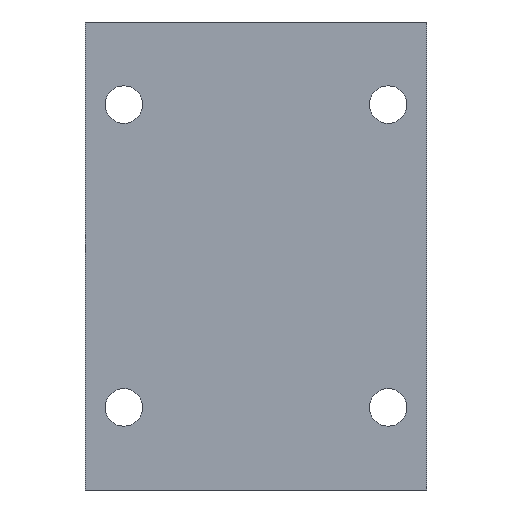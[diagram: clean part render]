
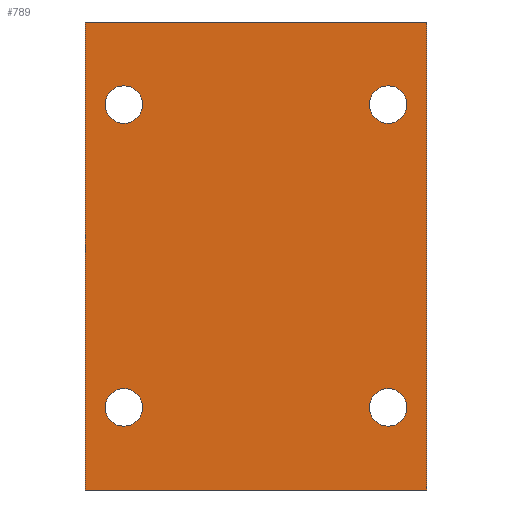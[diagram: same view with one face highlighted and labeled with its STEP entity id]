
A CAD part, front view. The second image highlights one B-rep face of the part: STEP entity #789.
In plain terms, the highlighted planar face has unit normal (0, -1, 0).
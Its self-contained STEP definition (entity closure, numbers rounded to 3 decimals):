
#6 = EDGE_CURVE ( 'NONE', #798, #648, #185, .T. ) ;
#46 = FACE_BOUND ( 'NONE', #164, .T. ) ;
#58 = CARTESIAN_POINT ( 'NONE',  ( -31., -27., 42.5 ) ) ;
#70 = CARTESIAN_POINT ( 'NONE',  ( -24., -27., -24.1 ) ) ;
#72 = AXIS2_PLACEMENT_3D ( 'NONE', #575, #127, #1046 ) ;
#84 = EDGE_CURVE ( 'NONE', #806, #1128, #363, .T. ) ;
#85 = VERTEX_POINT ( 'NONE', #514 ) ;
#89 = VECTOR ( 'NONE', #357, 1000. ) ;
#93 = AXIS2_PLACEMENT_3D ( 'NONE', #1166, #124, #493 ) ;
#124 = DIRECTION ( 'NONE',  ( 0., 1., 0. ) ) ;
#127 = DIRECTION ( 'NONE',  ( 0., -1., 0. ) ) ;
#164 = EDGE_LOOP ( 'NONE', ( #246, #1146 ) ) ;
#165 = VECTOR ( 'NONE', #581, 1000. ) ;
#181 = EDGE_CURVE ( 'NONE', #1044, #182, #1041, .T. ) ;
#182 = VERTEX_POINT ( 'NONE', #404 ) ;
#185 = CIRCLE ( 'NONE', #540, 3.4 ) ;
#200 = ORIENTED_EDGE ( 'NONE', *, *, #495, .T. ) ;
#236 = EDGE_CURVE ( 'NONE', #1128, #806, #1158, .T. ) ;
#245 = CIRCLE ( 'NONE', #1178, 3.4 ) ;
#246 = ORIENTED_EDGE ( 'NONE', *, *, #431, .F. ) ;
#268 = EDGE_LOOP ( 'NONE', ( #510, #832 ) ) ;
#269 = ORIENTED_EDGE ( 'NONE', *, *, #181, .T. ) ;
#275 = CARTESIAN_POINT ( 'NONE',  ( 24., -27., 27.5 ) ) ;
#288 = CARTESIAN_POINT ( 'NONE',  ( -24., -27., -27.5 ) ) ;
#292 = CARTESIAN_POINT ( 'NONE',  ( 24., -27., -30.9 ) ) ;
#297 = CARTESIAN_POINT ( 'NONE',  ( -31., -27., -42.5 ) ) ;
#299 = CARTESIAN_POINT ( 'NONE',  ( -31., -27., 42.5 ) ) ;
#301 = EDGE_LOOP ( 'NONE', ( #713, #990 ) ) ;
#327 = AXIS2_PLACEMENT_3D ( 'NONE', #275, #862, #866 ) ;
#348 = CARTESIAN_POINT ( 'NONE',  ( -24., -27., 27.5 ) ) ;
#357 = DIRECTION ( 'NONE',  ( 1., 0., 0. ) ) ;
#363 = CIRCLE ( 'NONE', #327, 3.4 ) ;
#371 = DIRECTION ( 'NONE',  ( 0., 0., -1. ) ) ;
#372 = VERTEX_POINT ( 'NONE', #892 ) ;
#380 = LINE ( 'NONE', #297, #165 ) ;
#401 = CIRCLE ( 'NONE', #1083, 3.4 ) ;
#404 = CARTESIAN_POINT ( 'NONE',  ( -31., -27., -42.5 ) ) ;
#406 = EDGE_CURVE ( 'NONE', #648, #798, #245, .T. ) ;
#411 = EDGE_LOOP ( 'NONE', ( #818, #727 ) ) ;
#415 = CARTESIAN_POINT ( 'NONE',  ( 24., -27., 24.1 ) ) ;
#429 = FACE_BOUND ( 'NONE', #301, .T. ) ;
#431 = EDGE_CURVE ( 'NONE', #1014, #701, #658, .T. ) ;
#464 = CARTESIAN_POINT ( 'NONE',  ( 24., -27., -24.1 ) ) ;
#474 = DIRECTION ( 'NONE',  ( 0., -1., 0. ) ) ;
#478 = VECTOR ( 'NONE', #371, 1000. ) ;
#485 = CARTESIAN_POINT ( 'NONE',  ( -24., -27., -27.5 ) ) ;
#493 = DIRECTION ( 'NONE',  ( 0., 0., 1. ) ) ;
#495 = EDGE_CURVE ( 'NONE', #182, #85, #380, .T. ) ;
#510 = ORIENTED_EDGE ( 'NONE', *, *, #700, .F. ) ;
#514 = CARTESIAN_POINT ( 'NONE',  ( 31., -27., -42.5 ) ) ;
#531 = LINE ( 'NONE', #58, #89 ) ;
#540 = AXIS2_PLACEMENT_3D ( 'NONE', #288, #1109, #747 ) ;
#557 = CIRCLE ( 'NONE', #621, 3.4 ) ;
#575 = CARTESIAN_POINT ( 'NONE',  ( -24., -27., 27.5 ) ) ;
#576 = CARTESIAN_POINT ( 'NONE',  ( -24., -27., 24.1 ) ) ;
#581 = DIRECTION ( 'NONE',  ( 1., 0., 0. ) ) ;
#588 = DIRECTION ( 'NONE',  ( 0., 0., -1. ) ) ;
#592 = FACE_OUTER_BOUND ( 'NONE', #919, .T. ) ;
#619 = DIRECTION ( 'NONE',  ( 0., 0., -1. ) ) ;
#621 = AXIS2_PLACEMENT_3D ( 'NONE', #963, #711, #588 ) ;
#637 = VECTOR ( 'NONE', #1150, 1000. ) ;
#647 = CARTESIAN_POINT ( 'NONE',  ( 24., -27., -27.5 ) ) ;
#648 = VERTEX_POINT ( 'NONE', #70 ) ;
#658 = CIRCLE ( 'NONE', #72, 3.4 ) ;
#666 = CARTESIAN_POINT ( 'NONE',  ( 24., -27., 30.9 ) ) ;
#683 = DIRECTION ( 'NONE',  ( 0., -1., 0. ) ) ;
#700 = EDGE_CURVE ( 'NONE', #1122, #1082, #557, .T. ) ;
#701 = VERTEX_POINT ( 'NONE', #796 ) ;
#711 = DIRECTION ( 'NONE',  ( 0., -1., 0. ) ) ;
#713 = ORIENTED_EDGE ( 'NONE', *, *, #6, .F. ) ;
#717 = DIRECTION ( 'NONE',  ( 0., -1., 0. ) ) ;
#718 = AXIS2_PLACEMENT_3D ( 'NONE', #348, #717, #816 ) ;
#727 = ORIENTED_EDGE ( 'NONE', *, *, #236, .F. ) ;
#747 = DIRECTION ( 'NONE',  ( 0., 0., -1. ) ) ;
#761 = DIRECTION ( 'NONE',  ( 0., 0., -1. ) ) ;
#776 = CIRCLE ( 'NONE', #718, 3.4 ) ;
#789 = ADVANCED_FACE ( 'NONE', ( #790, #46, #1073, #429, #592 ), #972, .F. ) ;
#790 = FACE_BOUND ( 'NONE', #268, .T. ) ;
#796 = CARTESIAN_POINT ( 'NONE',  ( -24., -27., 30.9 ) ) ;
#798 = VERTEX_POINT ( 'NONE', #1144 ) ;
#806 = VERTEX_POINT ( 'NONE', #415 ) ;
#816 = DIRECTION ( 'NONE',  ( 0., 0., -1. ) ) ;
#818 = ORIENTED_EDGE ( 'NONE', *, *, #84, .F. ) ;
#832 = ORIENTED_EDGE ( 'NONE', *, *, #1087, .F. ) ;
#857 = ORIENTED_EDGE ( 'NONE', *, *, #1107, .F. ) ;
#862 = DIRECTION ( 'NONE',  ( 0., -1., 0. ) ) ;
#866 = DIRECTION ( 'NONE',  ( 0., 0., -1. ) ) ;
#892 = CARTESIAN_POINT ( 'NONE',  ( 31., -27., 42.5 ) ) ;
#919 = EDGE_LOOP ( 'NONE', ( #200, #857, #1193, #269 ) ) ;
#923 = EDGE_CURVE ( 'NONE', #1044, #372, #531, .T. ) ;
#940 = DIRECTION ( 'NONE',  ( 0., 0., -1. ) ) ;
#950 = AXIS2_PLACEMENT_3D ( 'NONE', #973, #1113, #619 ) ;
#963 = CARTESIAN_POINT ( 'NONE',  ( 24., -27., -27.5 ) ) ;
#966 = EDGE_CURVE ( 'NONE', #701, #1014, #776, .T. ) ;
#972 = PLANE ( 'NONE',  #93 ) ;
#973 = CARTESIAN_POINT ( 'NONE',  ( 24., -27., 27.5 ) ) ;
#990 = ORIENTED_EDGE ( 'NONE', *, *, #406, .F. ) ;
#1014 = VERTEX_POINT ( 'NONE', #576 ) ;
#1041 = LINE ( 'NONE', #299, #637 ) ;
#1044 = VERTEX_POINT ( 'NONE', #1108 ) ;
#1046 = DIRECTION ( 'NONE',  ( 0., 0., -1. ) ) ;
#1073 = FACE_BOUND ( 'NONE', #411, .T. ) ;
#1082 = VERTEX_POINT ( 'NONE', #464 ) ;
#1083 = AXIS2_PLACEMENT_3D ( 'NONE', #647, #474, #761 ) ;
#1087 = EDGE_CURVE ( 'NONE', #1082, #1122, #401, .T. ) ;
#1107 = EDGE_CURVE ( 'NONE', #372, #85, #1198, .T. ) ;
#1108 = CARTESIAN_POINT ( 'NONE',  ( -31., -27., 42.5 ) ) ;
#1109 = DIRECTION ( 'NONE',  ( 0., -1., 0. ) ) ;
#1113 = DIRECTION ( 'NONE',  ( 0., -1., 0. ) ) ;
#1122 = VERTEX_POINT ( 'NONE', #292 ) ;
#1125 = CARTESIAN_POINT ( 'NONE',  ( 31., -27., 42.5 ) ) ;
#1128 = VERTEX_POINT ( 'NONE', #666 ) ;
#1144 = CARTESIAN_POINT ( 'NONE',  ( -24., -27., -30.9 ) ) ;
#1146 = ORIENTED_EDGE ( 'NONE', *, *, #966, .F. ) ;
#1150 = DIRECTION ( 'NONE',  ( 0., 0., -1. ) ) ;
#1158 = CIRCLE ( 'NONE', #950, 3.4 ) ;
#1166 = CARTESIAN_POINT ( 'NONE',  ( -31., -27., 42.5 ) ) ;
#1178 = AXIS2_PLACEMENT_3D ( 'NONE', #485, #683, #940 ) ;
#1193 = ORIENTED_EDGE ( 'NONE', *, *, #923, .F. ) ;
#1198 = LINE ( 'NONE', #1125, #478 ) ;
